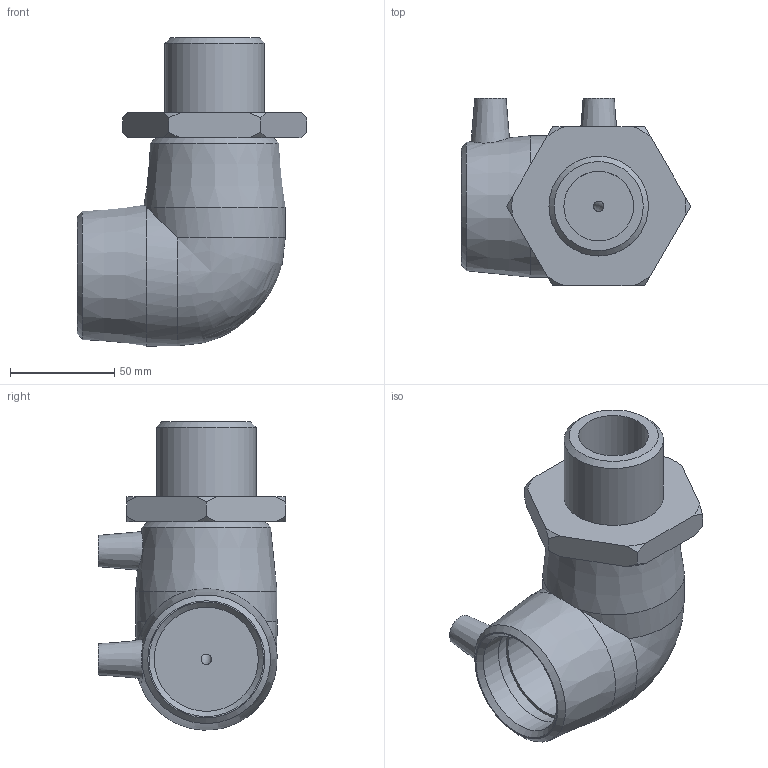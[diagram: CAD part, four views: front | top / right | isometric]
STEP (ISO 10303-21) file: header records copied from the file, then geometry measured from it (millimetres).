
FILE_DESCRIPTION(/* description */ ('PE Male Transition Elbow 90° 50x 1 1_2'),/* implementation_level */ '2;1');
FILE_NAME(/* name */ 'C:\Dropbox\KIMPROJECTS-Inventor\99-16-3568-Processing\ElectroFusion Fittings\21.04\497504\497504050015.ipt.stp',/* time_stamp */ '2019-04-21T15:13:03+03:00',/* author */ ('KIM'),/* organization */ (''),/* preprocessor_version */ 'ST-DEVELOPER v15.6',/* originating_system */ 'Autodesk Inventor 2015',/* authorisation */ '');
FILE_SCHEMA (('AUTOMOTIVE_DESIGN { 1 0 10303 214 3 1 1 }'));
Length unit declared in the file: millimetre
Products named in the file (1): 497504050015
Bounding box: 110.2 x 90.28 x 147.98 mm (x, y, z)
Volume: 411341.6 mm3; surface area: 78245.4 mm2
Topology: 2 solids, 2 shells, 60 faces, 134 edges, 86 vertices
Faces by surface type: plane 22, cone 22, cylinder 14, bspline 1, torus 1
Full cylindrical faces by diameter (mm): 4 x2, 5 x1, 10 x2, 33.462 x1, 38 x1, 47.803 x1, 50 x4
Entity records: 1541 total; most frequent: CARTESIAN_POINT 370, DIRECTION 246, ORIENTED_EDGE 196, AXIS2_PLACEMENT_3D 114, EDGE_LOOP 99, EDGE_CURVE 98, VERTEX_POINT 77, FACE_OUTER_BOUND 60
